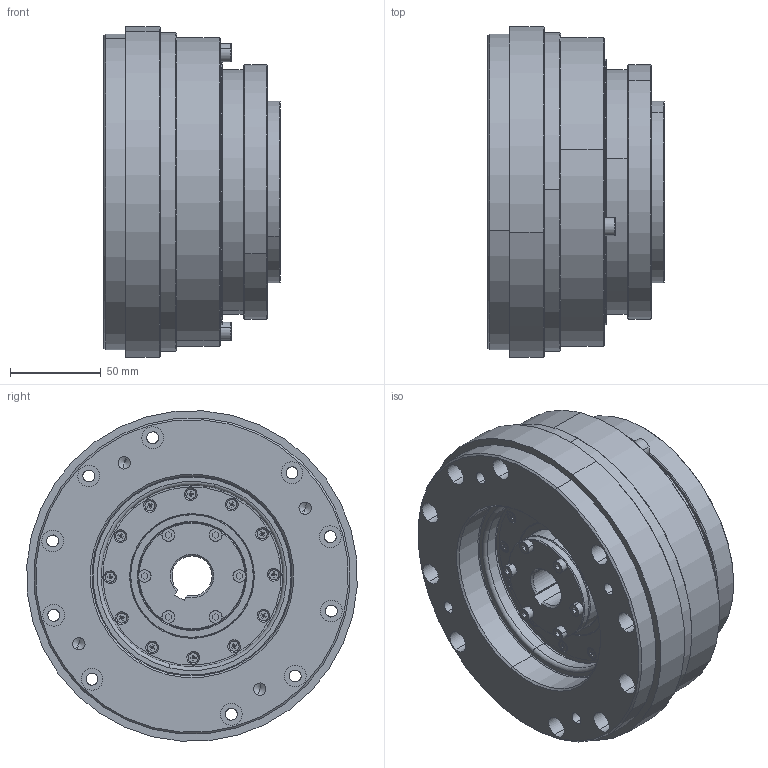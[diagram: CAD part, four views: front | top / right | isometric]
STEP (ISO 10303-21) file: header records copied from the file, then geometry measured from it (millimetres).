
FILE_DESCRIPTION (( 'STEP AP214' ), '1' );
FILE_NAME ('LHSG-40-XXX-RDP-22-58-110-145-M8.step', '2022-08-03T03:58:57', ( 'Sysceo.com' ), ( '' ), 'SwSTEP 2.0', 'SolidWorks 2020', '' );
FILE_SCHEMA (( 'AUTOMOTIVE_DESIGN' ));
Length unit declared in the file: millimetre
Products named in the file (1): LHSG-40-XXX-RDP-22-58-110-145-M8
Bounding box: 97 x 181.53 x 181.53 mm (x, y, z)
Volume: 1362419.6 mm3; surface area: 501249.4 mm2
Topology: 107 solids, 107 shells, 2204 faces, 5196 edges, 3012 vertices
Faces by surface type: cylinder 699, plane 669, cone 452, sphere 228, torus 156
Entity records: 85802 total; most frequent: DIRECTION 11528, CARTESIAN_POINT 10419, ORIENTED_EDGE 9440, AXIS2_PLACEMENT_3D 4777, EDGE_CURVE 4720, VERTEX_POINT 2904, EDGE_LOOP 2656, CIRCLE 2572
